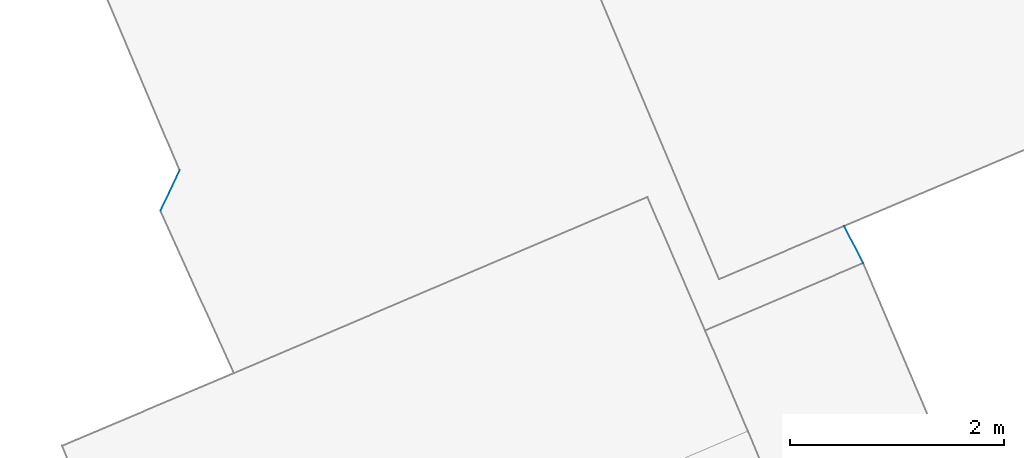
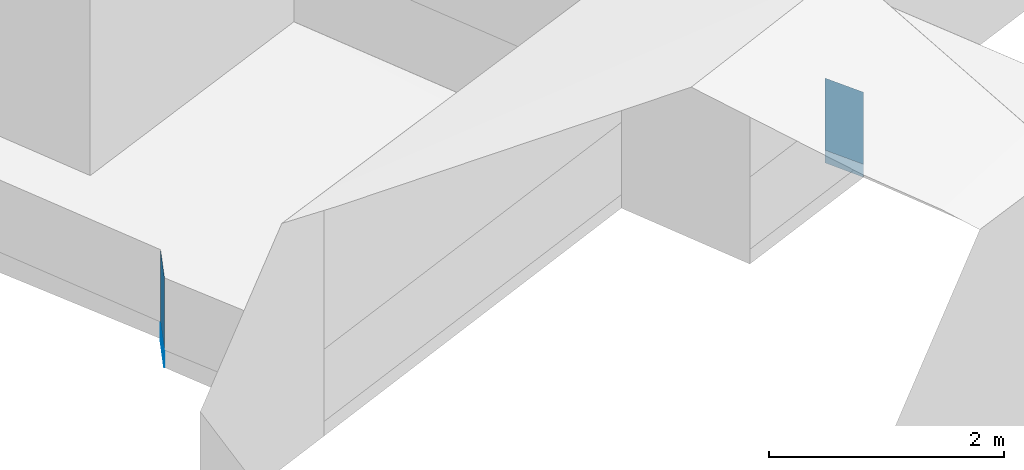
# Not in any storey, part 52 of 59: 6 walls.
"""IFC4 building model written with IfcOpenShell, lengths in metres."""

import ifcopenshell
import ifcopenshell.guid

model = None  # the IFC model being written
_history = None  # IfcOwnerHistory: only IFC2X3 demands one
_inside = {}  # id of a spatial element -> (the spatial element, [elements in it])
_under = {}  # id of a project, library or spatial element -> (it, [spatial elements below it])
_declared = {}  # id of a project -> (the project, [libraries it declares])
_typed = {}  # id of a type object -> (the type object, [elements of that type])
_made_of = {}  # id of a material, layer set ... -> (it, [elements and type objects made of it])


def new_model(schema):
    """Start an empty IFC model of exactly this schema.

    Asked for "IFC4X3", IfcOpenShell would pick the latest addendum, in which some entities
    have other attributes; the version numbers below select the first issue.
    IFC2X3 requires an IfcOwnerHistory on every rooted entity: one is made here for all.
    """
    global model, _history
    if schema == "IFC4X3":
        model = ifcopenshell.file(schema_version=(4, 3, 0, 0))
    else:
        model = ifcopenshell.file(schema=schema)
    _inside.clear()
    _under.clear()
    _declared.clear()
    _typed.clear()
    _made_of.clear()
    _history = None
    if model.schema == "IFC2X3":
        org = make("IfcOrganization", Name="unknown")
        user = make(
            "IfcPersonAndOrganization",
            ThePerson=make("IfcPerson", FamilyName="unknown"),
            TheOrganization=org,
        )
        app = make(
            "IfcApplication",
            ApplicationDeveloper=org,
            Version="unknown",
            ApplicationFullName="unknown",
            ApplicationIdentifier="unknown",
        )
        _history = make(
            "IfcOwnerHistory",
            OwningUser=user,
            OwningApplication=app,
            ChangeAction="ADDED",
            CreationDate=0,
        )
    return model


def make(cls, **values):
    """One entity of the class cls with the attributes given. An attribute that is None is left unset."""
    return model.create_entity(
        cls, **{name: value for name, value in values.items() if value is not None}
    )


def entity(cls, *values):
    """Any entity or typed value of the class cls, its attributes in the order of the schema. None: left unset."""
    e = model.create_entity(cls)
    for i, value in enumerate(values):
        if value is not None:
            e[i] = value
    return e


def rooted(cls, **values):
    """An entity with a GlobalId (a new one), such as an element, a storey or a relation."""
    return make(cls, GlobalId=ifcopenshell.guid.new(), OwnerHistory=_history, **values)


def si_unit(unit_type, name, prefix=None):
    """IfcSIUnit, for example si_unit("LENGTHUNIT", "METRE", prefix="MILLI")."""
    return make("IfcSIUnit", UnitType=unit_type, Prefix=prefix, Name=name)


def converted_unit(unit_type, name, factor, base, dimensions=None, offset=None):
    """IfcConversionBasedUnit, such as the inch: factor (a typed value) times the base unit."""
    return make(
        "IfcConversionBasedUnit"
        if offset is None
        else "IfcConversionBasedUnitWithOffset",
        ConversionOffset=offset,
        Dimensions=None
        if dimensions is None
        else entity("IfcDimensionalExponents", *dimensions),
        UnitType=unit_type,
        Name=name,
        ConversionFactor=make(
            "IfcMeasureWithUnit", ValueComponent=factor, UnitComponent=base
        ),
    )


def assignment(units):
    """IfcUnitAssignment: the units of a project."""
    return None if units is None else make("IfcUnitAssignment", Units=units)


def point(xyz):
    """IfcCartesianPoint."""
    return None if xyz is None else make("IfcCartesianPoint", Coordinates=xyz)


def direction(xyz):
    """IfcDirection."""
    return None if xyz is None else make("IfcDirection", DirectionRatios=xyz)


def frame(location, z_axis=None, x_axis=None):
    """IfcAxis2Placement3D, a coordinate frame: its origin and axes. An axis left out is left unset."""
    return make(
        "IfcAxis2Placement3D",
        Location=point(location),
        Axis=direction(z_axis),
        RefDirection=direction(x_axis),
    )


def origin():
    """The frame at (0, 0, 0) with its axes left unset."""
    return frame((0.0, 0.0, 0.0))


def place(relative_to, where):
    """IfcLocalPlacement: puts the frame where relative to a parent placement (None: the world)."""
    return make(
        "IfcLocalPlacement", PlacementRelTo=relative_to, RelativePlacement=where
    )


def context(
    kind, dimensions, precision=None, world=None, true_north=None, identifier=None
):
    """IfcGeometricRepresentationContext, for example the 3D "Model" context."""
    return make(
        "IfcGeometricRepresentationContext",
        ContextIdentifier=identifier,
        ContextType=kind,
        CoordinateSpaceDimension=dimensions,
        Precision=precision,
        WorldCoordinateSystem=world,
        TrueNorth=true_north,
    )


def subcontext(parent, identifier, kind, view, scale=None):
    """IfcGeometricRepresentationSubContext, for example "Body" below "Model"."""
    return make(
        "IfcGeometricRepresentationSubContext",
        ContextIdentifier=identifier,
        ContextType=kind,
        ParentContext=parent,
        TargetScale=scale,
        TargetView=view,
    )


def project(units=None, contexts=None):
    """IfcProject with its units and contexts."""
    return rooted(
        "IfcProject",
        Name="project",
        RepresentationContexts=contexts,
        UnitsInContext=assignment(units),
    )


def spatial(cls, under=None, at=None, **own):
    """A site, building, storey or space (cls), placed at a placement, below another one or the project."""
    s = rooted(cls, ObjectPlacement=at, **own)
    if under is not None:
        _under.setdefault(under.id(), (under, []))[1].append(s)
    return s


def faces_of(points, faces, orient=None, outer=None):
    """IfcFace entities. A face is a list of loops; a loop is a list of indices into points, from 0.

    orient and outer hold one flag for each loop. By default every Orientation is true, the
    first loop of a face is its IfcFaceOuterBound and the others are IfcFaceBound.
    """
    made = []
    for i, loops in enumerate(faces):
        bounds = []
        for j, loop in enumerate(loops):
            is_outer = j == 0 if outer is None else outer[i][j]
            bounds.append(
                make(
                    "IfcFaceOuterBound" if is_outer else "IfcFaceBound",
                    Bound=make("IfcPolyLoop", Polygon=[points[k] for k in loop]),
                    Orientation=True if orient is None else orient[i][j],
                )
            )
        made.append(make("IfcFace", Bounds=bounds))
    return made


def face_set(faces, orient=None, outer=None):
    """The faces of one IfcConnectedFaceSet. surface_model builds it on its shared points."""
    return ("IfcConnectedFaceSet", faces, orient, outer)


def surface_model(cls, points, shells):
    """IfcFaceBasedSurfaceModel or IfcShellBasedSurfaceModel (cls): surfaces that need not close."""
    shared = [point(p) for p in points]
    made = [make(c, CfsFaces=faces_of(shared, fs, o, b)) for c, fs, o, b in shells]
    if cls == "IfcFaceBasedSurfaceModel":
        return make(cls, FbsmFaces=made)
    return make(cls, SbsmBoundary=made)


def shape(context_of_items, identifier, shape_type, items):
    """IfcShapeRepresentation: the items that make up one representation, for example the "Body"."""
    return make(
        "IfcShapeRepresentation",
        ContextOfItems=context_of_items,
        RepresentationIdentifier=identifier,
        RepresentationType=shape_type,
        Items=items,
    )


def made_of(thing, what):
    """Note that an element or type object is made of a material, layer set ...; save() writes the relation."""
    if what is not None:
        _made_of.setdefault(what.id(), (what, []))[1].append(thing)
    return thing


def element(
    cls,
    number,
    at=None,
    inside=None,
    cuts=None,
    type_object=None,
    material=None,
    context=None,
    identifier="Body",
    shape_type=None,
    held_by="IfcProductDefinitionShape",
    body=None,
    shapes=None,
    **own,
):
    """One element of the class cls, such as IfcWall. Its Tag is "e" and its number.

    at: its placement. inside: the storey or other place that contains it. cuts: it is an
    opening in that element (IfcRelVoidsElement). A single representation is given by context,
    identifier, shape_type and body (its items); several are given by shapes. held_by: the class
    of the entity that holds the representations. save() writes the other relations.
    """
    e = rooted(cls, Tag="e%d" % number, ObjectPlacement=at, **own)
    if body is not None:
        shapes = [shape(context, identifier, shape_type, body)]
    if shapes is not None:
        e.Representation = make(held_by, Representations=shapes)
    if inside is not None:
        _inside.setdefault(inside.id(), (inside, []))[1].append(e)
    if cuts is not None:
        rooted(
            "IfcRelVoidsElement", RelatingBuildingElement=cuts, RelatedOpeningElement=e
        )
    if type_object is not None:
        _typed.setdefault(type_object.id(), (type_object, []))[1].append(e)
    return made_of(e, material)


def aggregate(whole, parts):
    """IfcRelAggregates: a whole, such as a stair, and the parts it consists of."""
    return rooted("IfcRelAggregates", RelatingObject=whole, RelatedObjects=parts)


def save(model, path):
    """Write the relations noted so far, then the file.

    IfcRelAggregates (storeys below a building ...), IfcRelContainedInSpatialStructure (elements
    in a storey), IfcRelDefinesByType, IfcRelAssociatesMaterial and IfcRelDeclares: one each for
    every whole, place, type object, material and project.
    """
    for whole, parts in _under.values():
        aggregate(whole, parts)
    for where, things in _inside.values():
        rooted(
            "IfcRelContainedInSpatialStructure",
            RelatedElements=things,
            RelatingStructure=where,
        )
    for kind, things in _typed.values():
        rooted("IfcRelDefinesByType", RelatedObjects=things, RelatingType=kind)
    for what, things in _made_of.values():
        rooted("IfcRelAssociatesMaterial", RelatedObjects=things, RelatingMaterial=what)
    for by, libraries in _declared.values():
        rooted("IfcRelDeclares", RelatingContext=by, RelatedDefinitions=libraries)
    model.write(path)


model = new_model("IFC4")

# Units and contexts
model_context = context("Model", 3, precision=1e-05, world=origin())
body_context = subcontext(model_context, "Body", "Model", "MODEL_VIEW")
ifc_project = project(units=[converted_unit("PLANEANGLEUNIT", "DEGREE", entity("IfcRatioMeasure", 0.0174532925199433), si_unit("PLANEANGLEUNIT", "RADIAN"), dimensions=[0, 0, 0, 0, 0, 0, 0]), si_unit("AREAUNIT", "SQUARE_METRE"), si_unit("LENGTHUNIT", "METRE")], contexts=[model_context])

# Site, building
site_placement = place(None, origin())
site = spatial("IfcSite", under=ifc_project, at=site_placement, Name="_site")
building_placement = place(site_placement, origin())
building = spatial("IfcBuilding", under=site, at=building_placement, Name="_building")

# Walls
for number, where, name in (
    (1, (0.0, 0.0, 0.0), "Wall"),
    (2, (0.0, 0.0, 0.0), "Wall"),
):
    element("IfcWall", number, at=place(building_placement, frame(where)), inside=building, Name=name, PredefinedType="NOTDEFINED", context=body_context, shape_type="SurfaceModel", body=[
        surface_model("IfcFaceBasedSurfaceModel", [(200.12, 191.631, 216.608), (200.3, 192.01, 216.608), (200.3, 192.01, 217.358), (200.12, 191.631, 217.358)], [face_set([[[0, 1, 2, 3]]])]),
    ])
for number, where, name in (
    (3, (0.0, 0.0, 0.0), "Wall"),
    (4, (0.0, 0.0, 0.0), "Wall"),
):
    element("IfcWall", number, at=place(building_placement, frame(where)), inside=building, Name=name, PredefinedType="NOTDEFINED", context=body_context, shape_type="SurfaceModel", body=[
        surface_model("IfcFaceBasedSurfaceModel", [(206.7, 191.141, 216.53), (206.521, 191.488, 216.53), (206.521, 191.488, 217.28), (206.7, 191.141, 217.28)], [face_set([[[0, 1, 2, 3]]])]),
    ])
wall_1_placement = place(building_placement, origin())
element("IfcWall", 5, at=wall_1_placement, inside=building, Name="Wall", PredefinedType="NOTDEFINED", context=body_context, shape_type="SurfaceModel", body=[
    surface_model("IfcFaceBasedSurfaceModel", [(200.12, 191.631, 216.608), (200.3, 192.01, 216.608), (200.3, 192.01, 216.434), (200.12, 191.631, 216.428)], [face_set([[[0, 1, 2, 3]]])]),
])
wall_2_placement = place(building_placement, origin())
element("IfcWall", 6, at=wall_2_placement, inside=building, Name="Wall", PredefinedType="NOTDEFINED", context=body_context, shape_type="SurfaceModel", body=[
    surface_model("IfcFaceBasedSurfaceModel", [(206.521, 191.488, 216.53), (206.7, 191.141, 216.53), (206.7, 191.141, 216.396), (206.521, 191.488, 216.399)], [face_set([[[0, 1, 2, 3]]])]),
])

save(model, "model.ifc")
